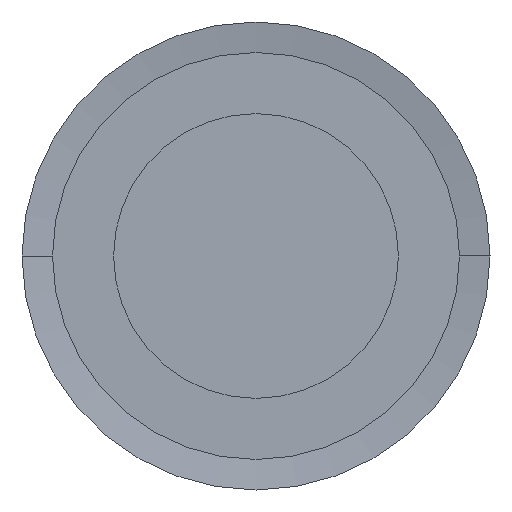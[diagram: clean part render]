
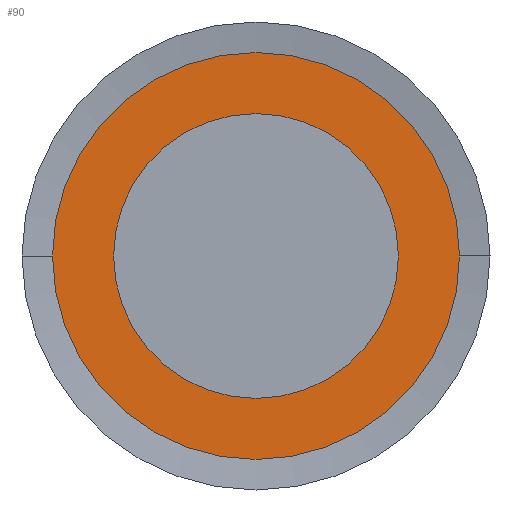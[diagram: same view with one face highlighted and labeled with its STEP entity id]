
A CAD part, left-side view. The second image highlights one B-rep face of the part: STEP entity #90.
In plain terms, the highlighted planar face has unit normal (-1, 0, 0).
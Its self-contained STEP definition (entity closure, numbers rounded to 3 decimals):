
#90 = ADVANCED_FACE( '', ( #218, #219 ), #220, .T. );
#218 = FACE_BOUND( '', #441, .T. );
#219 = FACE_OUTER_BOUND( '', #442, .T. );
#220 = PLANE( '', #443 );
#441 = EDGE_LOOP( '', ( #909, #910 ) );
#442 = EDGE_LOOP( '', ( #911, #912 ) );
#443 = AXIS2_PLACEMENT_3D( '', #913, #914, #915 );
#909 = ORIENTED_EDGE( '', *, *, #1573, .F. );
#910 = ORIENTED_EDGE( '', *, *, #1788, .F. );
#911 = ORIENTED_EDGE( '', *, *, #1789, .T. );
#912 = ORIENTED_EDGE( '', *, *, #1585, .T. );
#913 = CARTESIAN_POINT( '', ( 0.15, 8.5, 0. ) );
#914 = DIRECTION( '', ( -1., 0., 0. ) );
#915 = DIRECTION( '', ( 0., 1., 0. ) );
#1573 = EDGE_CURVE( '', #1879, #1882, #1883, .T. );
#1585 = EDGE_CURVE( '', #1906, #1903, #1907, .T. );
#1788 = EDGE_CURVE( '', #1882, #1879, #2300, .T. );
#1789 = EDGE_CURVE( '', #1903, #1906, #2301, .T. );
#1879 = VERTEX_POINT( '', #2391 );
#1882 = VERTEX_POINT( '', #2395 );
#1883 = CIRCLE( '', #2396, 7. );
#1903 = VERTEX_POINT( '', #2421 );
#1906 = VERTEX_POINT( '', #2425 );
#1907 = CIRCLE( '', #2426, 10. );
#2300 = CIRCLE( '', #2902, 7. );
#2301 = CIRCLE( '', #2903, 10. );
#2391 = CARTESIAN_POINT( '', ( 0.15, 7., 0. ) );
#2395 = CARTESIAN_POINT( '', ( 0.15, -7., 0. ) );
#2396 = AXIS2_PLACEMENT_3D( '', #3078, #3079, #3080 );
#2421 = CARTESIAN_POINT( '', ( 0.15, 10., 0. ) );
#2425 = CARTESIAN_POINT( '', ( 0.15, -10., 0. ) );
#2426 = AXIS2_PLACEMENT_3D( '', #3102, #3103, #3104 );
#2902 = AXIS2_PLACEMENT_3D( '', #3545, #3546, #3547 );
#2903 = AXIS2_PLACEMENT_3D( '', #3548, #3549, #3550 );
#3078 = CARTESIAN_POINT( '', ( 0.15, 0., 0. ) );
#3079 = DIRECTION( '', ( -1., 0., 0. ) );
#3080 = DIRECTION( '', ( 0., 1., 0. ) );
#3102 = CARTESIAN_POINT( '', ( 0.15, 0., 0. ) );
#3103 = DIRECTION( '', ( -1., 0., 0. ) );
#3104 = DIRECTION( '', ( 0., 1., 0. ) );
#3545 = CARTESIAN_POINT( '', ( 0.15, 0., 0. ) );
#3546 = DIRECTION( '', ( -1., 0., 0. ) );
#3547 = DIRECTION( '', ( 0., 1., 0. ) );
#3548 = CARTESIAN_POINT( '', ( 0.15, 0., 0. ) );
#3549 = DIRECTION( '', ( -1., 0., 0. ) );
#3550 = DIRECTION( '', ( 0., 1., 0. ) );
